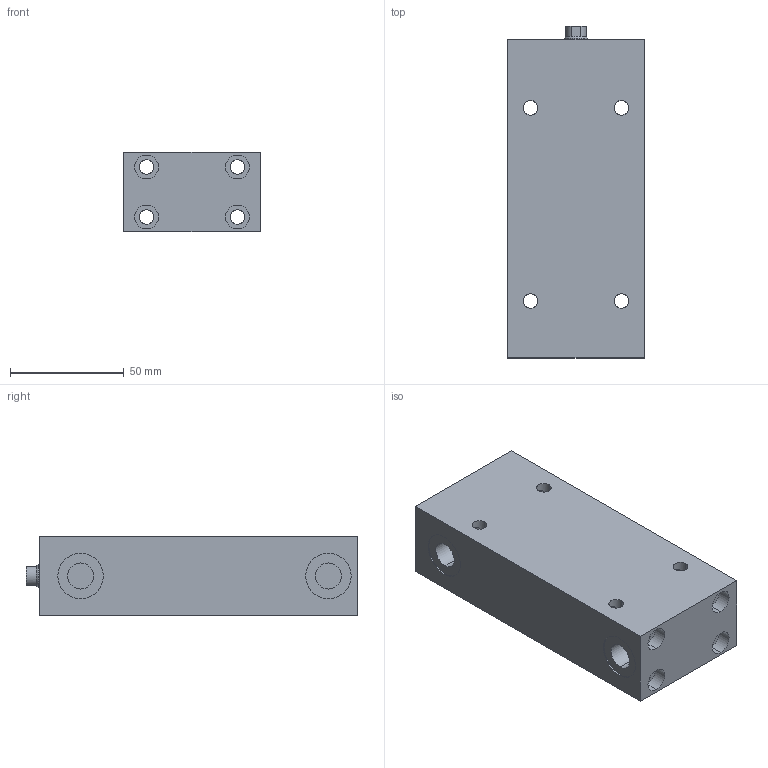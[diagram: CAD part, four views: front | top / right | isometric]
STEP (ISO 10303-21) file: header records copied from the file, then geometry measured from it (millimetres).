
FILE_DESCRIPTION (( 'STEP AP203' ), '1' );
FILE_NAME ('GERMA_Blockzylinder_600-016-100.STEP', '2015-07-16T12:21:51', ( '' ), ( '' ), 'SwSTEP 2.0', 'SolidWorks 2015', '' );
FILE_SCHEMA (( 'CONFIG_CONTROL_DESIGN' ));
Length unit declared in the file: millimetre
Products named in the file (3): GH-600-016_GH-600-016-100; Kolben 60x-016_Kolben DU.16-Hub100-IG; GERMA_Blockzylinder_600-016-100
Assembly tree (2 placements, depth 2):
  GERMA_Blockzylinder_600-016-100
    GH-600-016_GH-600-016-100
    Kolben 60x-016_Kolben DU.16-Hub100-IG
Bounding box: 60 x 146 x 35 mm (x, y, z)
Volume: 254123.7 mm3; surface area: 56482.3 mm2
Topology: 2 solids, 2 shells, 135 faces, 324 edges, 192 vertices
Faces by surface type: cylinder 91, plane 30, cone 14
Entity records: 4212 total; most frequent: CARTESIAN_POINT 842, DIRECTION 665, ORIENTED_EDGE 636, EDGE_CURVE 318, AXIS2_PLACEMENT_3D 271, VERTEX_POINT 192, EDGE_LOOP 172, FACE_OUTER_BOUND 135
